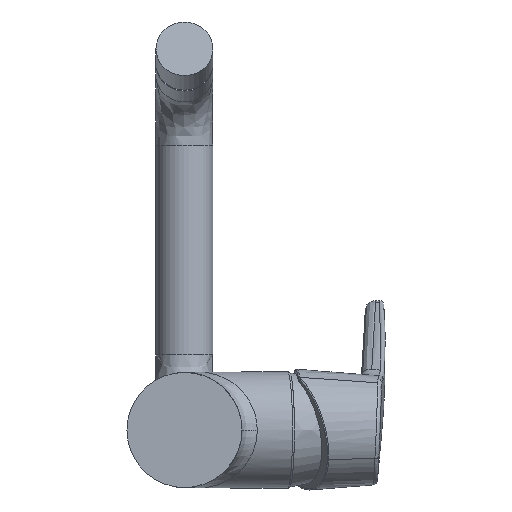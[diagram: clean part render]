
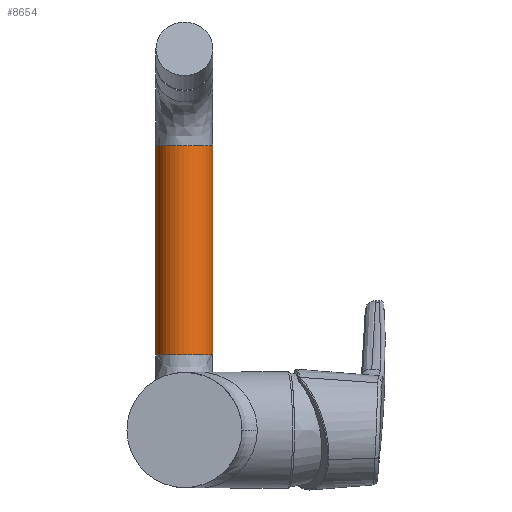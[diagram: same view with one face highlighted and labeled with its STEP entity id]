
A CAD part, front view. The second image highlights one B-rep face of the part: STEP entity #8654.
In plain terms, the highlighted cylindrical face has radius 11.4 mm (diameter 22.8 mm), a full revolution.
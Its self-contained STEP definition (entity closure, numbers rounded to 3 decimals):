
#3594 = VERTEX_POINT ( 'NONE', #12652 ) ;
#3720 = VERTEX_POINT ( 'NONE', #11261 ) ;
#4292 = CIRCLE ( 'NONE', #16442, 11.4 ) ;
#4443 = CARTESIAN_POINT ( 'NONE',  ( 0., 239.2, 30. ) ) ;
#5117 = AXIS2_PLACEMENT_3D ( 'NONE', #11820, #13207, #11404 ) ;
#5590 = CIRCLE ( 'NONE', #11729, 11.4 ) ;
#5871 = DIRECTION ( 'NONE',  ( 0., 1., 0. ) ) ;
#6002 = EDGE_LOOP ( 'NONE', ( #17781 ) ) ;
#7346 = DIRECTION ( 'NONE',  ( 0., 0., -1. ) ) ;
#8654 = ADVANCED_FACE ( 'NONE', ( #9401, #9604 ), #9078, .T. ) ;
#9078 = CYLINDRICAL_SURFACE ( 'NONE', #5117, 11.4 ) ;
#9401 = FACE_OUTER_BOUND ( 'NONE', #14877, .T. ) ;
#9604 = FACE_OUTER_BOUND ( 'NONE', #6002, .T. ) ;
#9791 = EDGE_CURVE ( 'NONE', #3720, #3720, #5590, .T. ) ;
#11261 = CARTESIAN_POINT ( 'NONE',  ( 0., 250.6, 30. ) ) ;
#11404 = DIRECTION ( 'NONE',  ( 0., 1., 0. ) ) ;
#11729 = AXIS2_PLACEMENT_3D ( 'NONE', #4443, #14305, #5871 ) ;
#11820 = CARTESIAN_POINT ( 'NONE',  ( 0., 239.2, 113.669 ) ) ;
#12520 = EDGE_CURVE ( 'NONE', #3594, #3594, #4292, .T. ) ;
#12652 = CARTESIAN_POINT ( 'NONE',  ( 0., 250.6, 113.669 ) ) ;
#13207 = DIRECTION ( 'NONE',  ( 0., 0., -1. ) ) ;
#14305 = DIRECTION ( 'NONE',  ( 0., 0., -1. ) ) ;
#14877 = EDGE_LOOP ( 'NONE', ( #17188 ) ) ;
#15693 = CARTESIAN_POINT ( 'NONE',  ( 0., 239.2, 113.669 ) ) ;
#16442 = AXIS2_PLACEMENT_3D ( 'NONE', #15693, #7346, #17058 ) ;
#17058 = DIRECTION ( 'NONE',  ( 0., 1., 0. ) ) ;
#17188 = ORIENTED_EDGE ( 'NONE', *, *, #9791, .F. ) ;
#17781 = ORIENTED_EDGE ( 'NONE', *, *, #12520, .T. ) ;
